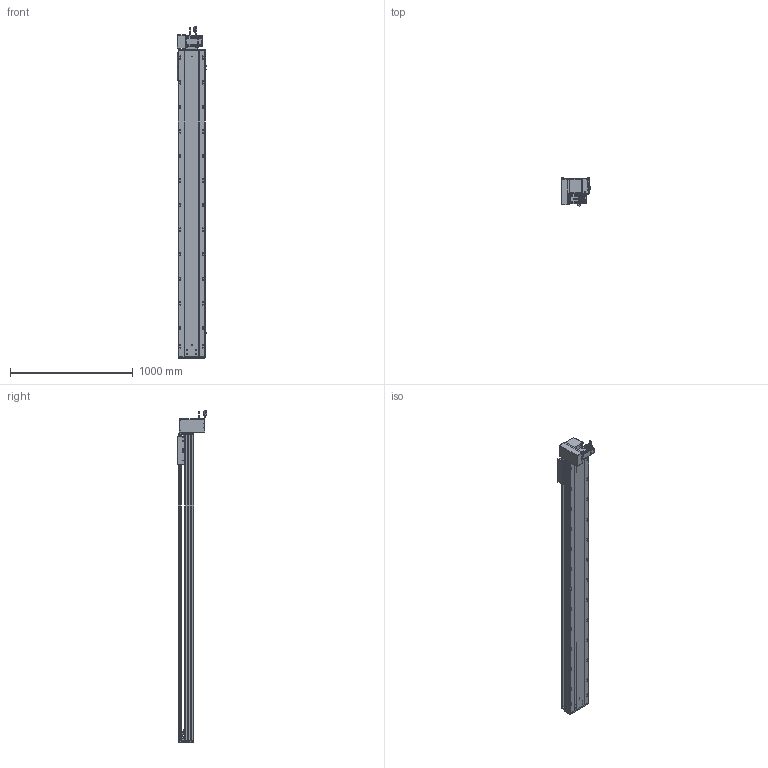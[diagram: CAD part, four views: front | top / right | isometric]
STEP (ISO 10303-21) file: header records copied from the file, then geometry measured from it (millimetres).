
FILE_DESCRIPTION (( 'STEP AP203' ), '1' );
FILE_NAME ('RY220-T-300-DL.SLDASM_2150.step', '2022-07-25T07:54:19', ( '' ), ( '' ), 'SwSTEP 2.0', 'SolidWorks 2016', '' );
FILE_SCHEMA (( 'CONFIG_CONTROL_DESIGN' ));
Length unit declared in the file: millimetre
Products named in the file (14): RY220圉猾敕々湍臏賑輸; RY220-T-300-DL.SLDASM_2150; 滅袉蝶18-15; 覜茼ん672; 110A-T-肮祭謫釱傷裔; RY220-T菁釱-300_2150; RY220-T-蛌殏萇儂假蚾啣(750W); RY220翋肮祭謫釱; RY220-同步轮副支撑座6304×2; 怢湛750W_ECMA-CX0807ES; RY220翋肮祭謫裔啣; RY220-T-湍謫欶(鍼踢); RY220-T-300-奻裔啣_2150; RY220-俋离672覜茼んえ
Assembly tree (18 placements, depth 2):
  RY220-T-300-DL.SLDASM_2150
    RY220-T菁釱-300_2150
    RY220翋肮祭謫釱
    覜茼ん672  x3
    RY220圉猾敕々湍臏賑輸
    RY220-T-300-奻裔啣_2150
    RY220-俋离672覜茼んえ
    滅袉蝶18-15  x3
    RY220翋肮祭謫裔啣  x2
    110A-T-肮祭謫釱傷裔
    怢湛750W_ECMA-CX0807ES
    RY220-T-湍謫欶(鍼踢)
    RY220-T-蛌殏萇儂假蚾啣(750W)
    RY220-同步轮副支撑座6304×2
Bounding box: 239.7 x 240.74 x 2703.27 mm (x, y, z)
Volume: 19702618.9 mm3; surface area: 6006176.4 mm2
Topology: 19 solids, 19 shells, 2860 faces, 7903 edges, 4972 vertices
Faces by surface type: cylinder 1384, plane 1069, cone 325, bspline 56, sphere 16, torus 10
Entity records: 95267 total; most frequent: CARTESIAN_POINT 26975, ORIENTED_EDGE 14138, DIRECTION 13548, EDGE_CURVE 7069, AXIS2_PLACEMENT_3D 4854, VERTEX_POINT 4596, VECTOR 3840, LINE 3840
